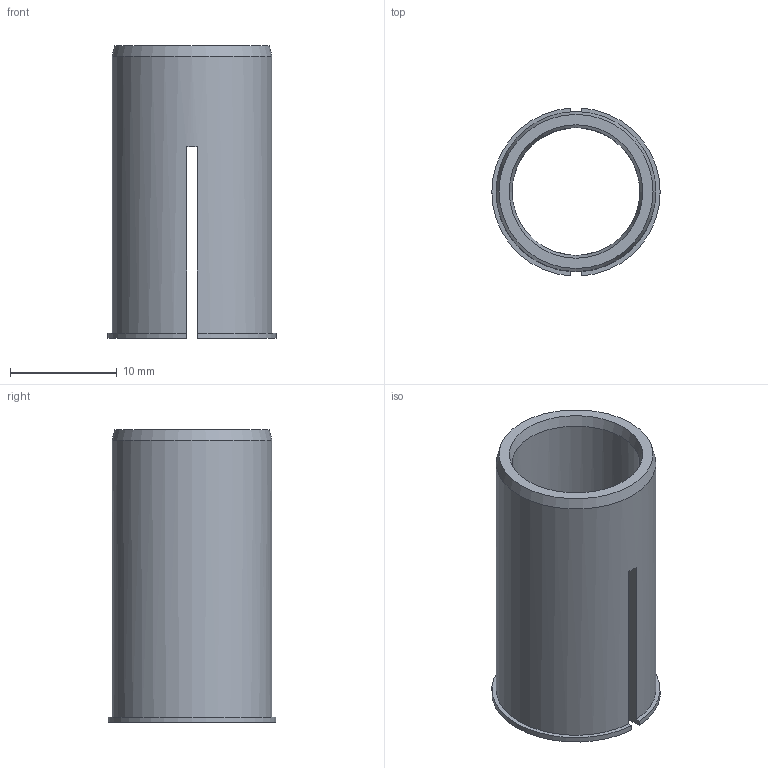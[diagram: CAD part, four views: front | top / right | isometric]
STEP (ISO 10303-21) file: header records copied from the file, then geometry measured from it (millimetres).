
FILE_DESCRIPTION(/* description */ ('STEP AP203'),/* implementation_level */ '2;1');
FILE_NAME(/* name */ 'P_MZ_Z_1256',/* time_stamp */ '2023-02-06T11:40:37+01:00',/* author */ ('License CC BY-ND 4.0'),/* organization */ ('CADENAS'),/* preprocessor_version */ 'ST-DEVELOPER v18.102',/* originating_system */ 'PARTsolutions',/* authorisation */ ' ');
FILE_SCHEMA (('CONFIG_CONTROL_DESIGN'));
Length unit declared in the file: millimetre
Products named in the file (1): P_MZ_Z_1256
Bounding box: 15.8 x 15.77 x 27.5 mm (x, y, z)
Volume: 1688.5 mm3; surface area: 2507.3 mm2
Topology: 1 solids, 1 shells, 19 faces, 52 edges, 34 vertices
Faces by surface type: plane 11, cylinder 4, cone 4
Full cylindrical faces by diameter (mm): 12 x1, 15 x1
Entity records: 608 total; most frequent: CARTESIAN_POINT 110, DIRECTION 100, ORIENTED_EDGE 92, EDGE_CURVE 46, AXIS2_PLACEMENT_3D 38, VERTEX_POINT 32, LINE 24, VECTOR 24
